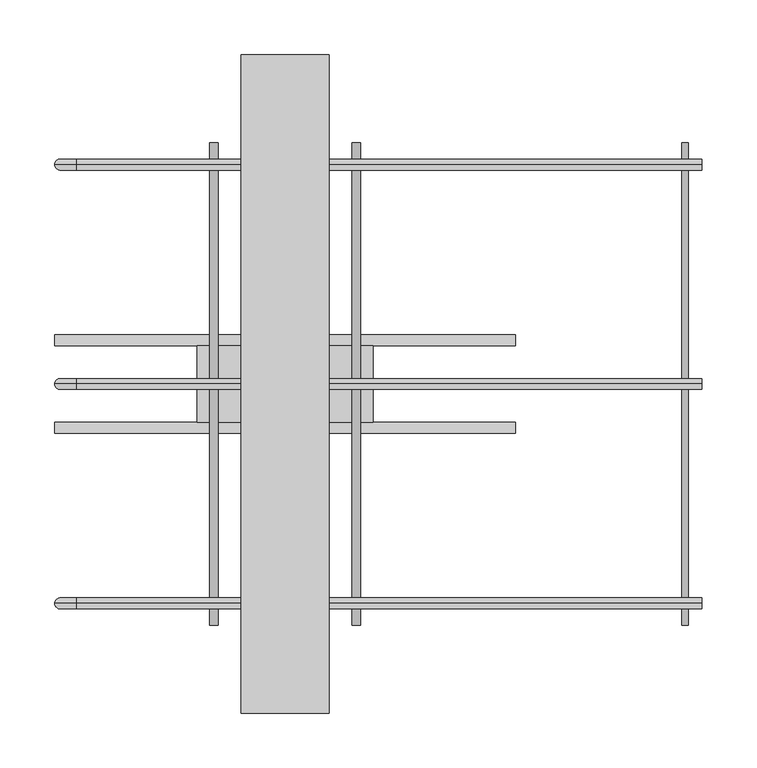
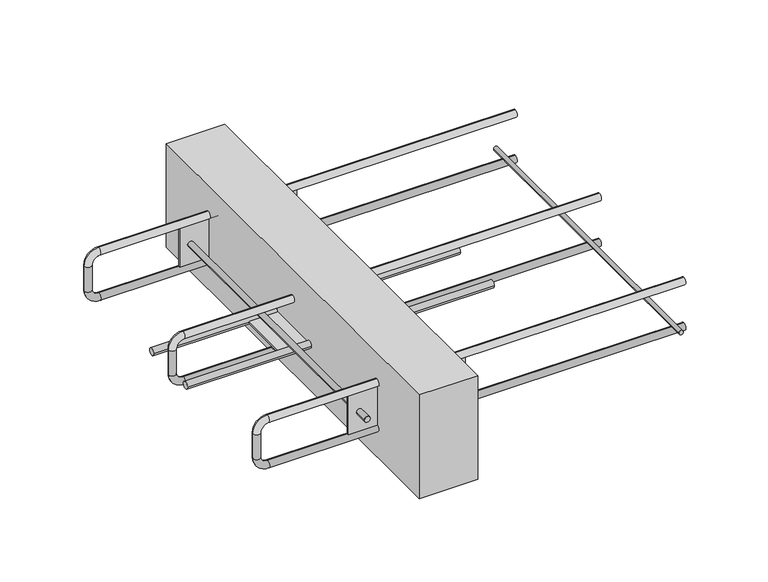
"""IFC4 building model written with IfcOpenShell, lengths in millimetres: fastener geometry, ACINOXplus_Typenreihe_UL-OL : UL+ S1."""

from ifc_helpers import new_model, si_unit, point, frame, frame_2d, origin, place, context, project, spatial, polyline, circle_curve, ellipse_curve, trimmed, segment, composite_curve, outline, extrude, source, transform, mapped, element, save
from ifc_brep_helpers import plane_surface, cylinder_surface, revolved_surface, advanced_brep


def fastener_825e70a4(model_context):
    return source(origin(), model_context, "Body", "SolidModel", [
        extrude(outline(composite_curve([segment(trimmed(circle_curve(frame_2d((-100.0, 365.0)), 3.0), [point((-100.0, 368.0))], [point((-100.0, 362.0))], False, "CARTESIAN"), True, "CONTINUOUS"), segment(trimmed(circle_curve(frame_2d((-100.0, 365.0)), 3.0), [point((-100.0, 362.0))], [point((-100.0, 368.0))], False, "CARTESIAN"), True, "CONTINUOUS")], self_intersect=False)), frame((0.0, -220.0, 0.0), z_axis=(0.0, 1.0, 0.0), x_axis=(0.0, 0.0, 1.0)), (0.0, 0.0, 1.0), 440.0),
        extrude(outline(polyline([(40.0, 300.0), (40.0, -300.0), (-40.0, -300.0), (-40.0, 300.0), (40.0, 300.0)])), frame((0.0, 0.0, -150.0), z_axis=(0.0, 0.0, 1.0), x_axis=(1.0, 0.0, 0.0)), (0.0, 0.0, 1.0), 150.0),
        extrude(outline(composite_curve([segment(trimmed(circle_curve(frame_2d((-40.0, -84.0)), 5.0), [point((-45.0, -84.0))], [point((-35.0, -84.0))], False, "CARTESIAN"), True, "CONTINUOUS"), segment(trimmed(circle_curve(frame_2d((-40.0, -84.0)), 5.0), [point((-35.0, -84.0))], [point((-45.0, -84.0))], False, "CARTESIAN"), True, "CONTINUOUS")], self_intersect=False)), frame((-210.0, 0.0, 0.0), z_axis=(1.0, 0.0, 0.0), x_axis=(0.0, 1.0, 0.0)), (0.0, 0.0, 1.0), 420.0),
        extrude(outline(composite_curve([segment(trimmed(circle_curve(frame_2d((40.0, -84.0)), 5.0), [point((35.0, -84.0))], [point((45.0, -84.0))], False, "CARTESIAN"), True, "CONTINUOUS"), segment(trimmed(circle_curve(frame_2d((40.0, -84.0)), 5.0), [point((45.0, -84.0))], [point((35.0, -84.0))], False, "CARTESIAN"), True, "CONTINUOUS")], self_intersect=False)), frame((-210.0, 0.0, 0.0), z_axis=(1.0, 0.0, 0.0), x_axis=(0.0, 1.0, 0.0)), (0.0, 0.0, 1.0), 420.0),
        extrude(outline(composite_curve([segment(trimmed(circle_curve(frame_2d((-65.0, 0.0)), 4.0), [point((-69.0, 0.0))], [point((-61.0, 0.0))], False, "CARTESIAN"), True, "CONTINUOUS"), segment(trimmed(circle_curve(frame_2d((-65.0, 0.0)), 4.0), [point((-61.0, 0.0))], [point((-69.0, 0.0))], False, "CARTESIAN"), True, "CONTINUOUS")], self_intersect=False)), frame((0.0, 0.0, -112.0), z_axis=(0.0, 0.0, 1.0), x_axis=(1.0, 0.0, 0.0)), (0.0, 0.0, 1.0), 26.5),
        extrude(outline(composite_curve([segment(trimmed(circle_curve(frame_2d((65.0, 0.0)), 4.0), [point((61.0, 0.0))], [point((69.0, 0.0))], False, "CARTESIAN"), True, "CONTINUOUS"), segment(trimmed(circle_curve(frame_2d((65.0, 0.0)), 4.0), [point((69.0, 0.0))], [point((61.0, 0.0))], False, "CARTESIAN"), True, "CONTINUOUS")], self_intersect=False)), frame((0.0, 0.0, -112.0), z_axis=(0.0, 0.0, 1.0), x_axis=(1.0, 0.0, 0.0)), (0.0, 0.0, 1.0), 26.5),
        extrude(outline(polyline([(80.0, 35.0), (80.0, -35.0), (-80.0, -35.0), (-80.0, 35.0), (80.0, 35.0)])), frame((0.0, 0.0, -85.5), z_axis=(0.0, 0.0, 1.0), x_axis=(1.0, 0.0, 0.0)), (0.0, 0.0, 1.0), 3.0),
        extrude(outline(composite_curve([segment(trimmed(circle_curve(frame_2d((-75.0, -65.0)), 4.0), [point((-75.0, -61.0))], [point((-75.0, -69.0))], False, "CARTESIAN"), True, "CONTINUOUS"), segment(trimmed(circle_curve(frame_2d((-75.0, -65.0)), 4.0), [point((-75.0, -69.0))], [point((-75.0, -61.0))], False, "CARTESIAN"), True, "CONTINUOUS")], self_intersect=False)), frame((0.0, -220.0, 0.0), z_axis=(0.0, 1.0, 0.0), x_axis=(0.0, 0.0, 1.0)), (0.0, 0.0, 1.0), 440.0),
        extrude(outline(composite_curve([segment(trimmed(circle_curve(frame_2d((-75.0, 65.0)), 4.0), [point((-75.0, 69.0))], [point((-75.0, 61.0))], False, "CARTESIAN"), True, "CONTINUOUS"), segment(trimmed(circle_curve(frame_2d((-75.0, 65.0)), 4.0), [point((-75.0, 61.0))], [point((-75.0, 69.0))], False, "CARTESIAN"), True, "CONTINUOUS")], self_intersect=False)), frame((0.0, -220.0, 0.0), z_axis=(0.0, 1.0, 0.0), x_axis=(0.0, 0.0, 1.0)), (0.0, 0.0, 1.0), 440.0),
        extrude(outline(polyline([(80.0, -198.5), (80.0, -201.5), (-80.0, -201.5), (-80.0, -198.5), (80.0, -198.5)])), frame((0.0, 0.0, -103.0), z_axis=(0.0, 0.0, 1.0), x_axis=(1.0, 0.0, 0.0)), (0.0, 0.0, 1.0), 56.0),
        extrude(outline(polyline([(80.0, 201.5), (80.0, 198.5), (-80.0, 198.5), (-80.0, 201.5), (80.0, 201.5)])), frame((0.0, 0.0, -103.0), z_axis=(0.0, 0.0, 1.0), x_axis=(1.0, 0.0, 0.0)), (0.0, 0.0, 1.0), 56.0),
        advanced_brep(
        [(380.0, 0.0, -37.0), (380.0, 0.0, -47.0), (-190.0, 0.0, -37.0), (-190.0, 0.0, -47.0), (-200.0, 0.0, -57.0), (-210.0, 0.0, -57.0), (-210.0, 0.0, -93.0), (-200.0, 0.0, -93.0), (-190.0, 0.0, -103.0), (-190.0, 0.0, -113.0), (380.0, 0.0, -113.0), (380.0, 0.0, -103.0)],
        [
            (0, 1, circle_curve(frame((380.0, 0.0, -42.0), z_axis=(1.0, 0.0, 0.0), x_axis=(0.0, 0.0, -1.0)), 5.0)),
            (1, 0, circle_curve(frame((380.0, 0.0, -42.0), z_axis=(1.0, 0.0, 0.0), x_axis=(0.0, 0.0, -1.0)), 5.0)),
            (0, 2),
            (2, 3, circle_curve(frame((-190.0, 0.0, -42.0), z_axis=(1.0, 0.0, 0.0), x_axis=(0.0, 0.0, -1.0)), 5.0)),
            (3, 1),
            (3, 2, circle_curve(frame((-190.0, 0.0, -42.0), z_axis=(1.0, 0.0, 0.0), x_axis=(0.0, 0.0, -1.0)), 5.0)),
            (4, 3, circle_curve(frame((-190.0, 0.0, -57.0), z_axis=(0.0, 1.0, 0.0), x_axis=(0.0, 0.0, 1.0)), 10.0)),
            (2, 5, circle_curve(frame((-190.0, 0.0, -57.0), z_axis=(0.0, -1.0, 0.0), x_axis=(0.0, 0.0, 1.0)), 20.0)),
            (5, 4, circle_curve(frame((-205.0, 0.0, -57.0), z_axis=(0.0, 0.0, 1.0), x_axis=(1.0, 0.0, 0.0)), 5.0)),
            (4, 5, circle_curve(frame((-205.0, 0.0, -57.0), z_axis=(0.0, 0.0, 1.0), x_axis=(1.0, 0.0, 0.0)), 5.0)),
            (5, 6),
            (6, 7, circle_curve(frame((-205.0, 0.0, -93.0), z_axis=(0.0, 0.0, 1.0), x_axis=(1.0, 0.0, 0.0)), 5.0)),
            (7, 4),
            (7, 6, circle_curve(frame((-205.0, 0.0, -93.0), z_axis=(0.0, 0.0, 1.0), x_axis=(1.0, 0.0, 0.0)), 5.0)),
            (8, 7, circle_curve(frame((-190.0, 0.0, -93.0), z_axis=(0.0, 1.0, 0.0), x_axis=(-1.0, 0.0, 0.0)), 10.0)),
            (6, 9, circle_curve(frame((-190.0, 0.0, -93.0), z_axis=(0.0, -1.0, 0.0), x_axis=(-1.0, 0.0, 0.0)), 20.0)),
            (9, 8, circle_curve(frame((-190.0, 0.0, -108.0), z_axis=(-1.0, 0.0, 0.0), x_axis=(0.0, 0.0, 1.0)), 5.0)),
            (8, 9, circle_curve(frame((-190.0, 0.0, -108.0), z_axis=(-1.0, 0.0, 0.0), x_axis=(0.0, 0.0, 1.0)), 5.0)),
            (10, 11, circle_curve(frame((380.0, 0.0, -108.0), z_axis=(1.0, 0.0, 0.0), x_axis=(0.0, 0.0, 1.0)), 5.0)),
            (11, 10, circle_curve(frame((380.0, 0.0, -108.0), z_axis=(1.0, 0.0, 0.0), x_axis=(0.0, 0.0, 1.0)), 5.0)),
            (9, 10),
            (11, 8),
        ],
        [
            plane_surface(frame((380.0, 0.0, -42.0), z_axis=(1.0, 0.0, 0.0), x_axis=(0.0, -1.0, 0.0))),
            cylinder_surface(frame((380.0, 0.0, -42.0), z_axis=(1.0, 0.0, 0.0), x_axis=(0.0, 0.0, -1.0)), 5.0),
            revolved_surface(trimmed(ellipse_curve(frame((-190.0, 0.0, -42.0), z_axis=(1.0, 0.0, 0.0), x_axis=(0.0, 0.0, -1.0)), 5.0, 5.0), [point((-190.0, 0.0, -37.0))], [point((-190.0, 0.0, -47.0))], True, "CARTESIAN"), (-190.0, 0.0, -57.0), (0.0, -1.0, 0.0)),
            revolved_surface(trimmed(ellipse_curve(frame((-190.0, 0.0, -42.0), z_axis=(1.0, 0.0, 0.0), x_axis=(0.0, 0.0, -1.0)), 5.0, 5.0), [point((-190.0, 0.0, -47.0))], [point((-190.0, 0.0, -37.0))], True, "CARTESIAN"), (-190.0, 0.0, -57.0), (0.0, -1.0, 0.0)),
            cylinder_surface(frame((-205.0, 0.0, -57.0), z_axis=(0.0, 0.0, 1.0), x_axis=(1.0, 0.0, 0.0)), 5.0),
            revolved_surface(trimmed(ellipse_curve(frame((-205.0, 0.0, -93.0), z_axis=(0.0, 0.0, 1.0), x_axis=(1.0, 0.0, 0.0)), 5.0, 5.0), [point((-210.0, 0.0, -93.0))], [point((-200.0, 0.0, -93.0))], True, "CARTESIAN"), (-190.0, 0.0, -93.0), (0.0, -1.0, 0.0)),
            revolved_surface(trimmed(ellipse_curve(frame((-205.0, 0.0, -93.0), z_axis=(0.0, 0.0, 1.0), x_axis=(1.0, 0.0, 0.0)), 5.0, 5.0), [point((-200.0, 0.0, -93.0))], [point((-210.0, 0.0, -93.0))], True, "CARTESIAN"), (-190.0, 0.0, -93.0), (0.0, -1.0, 0.0)),
            plane_surface(frame((380.0, 0.0, -108.0), z_axis=(1.0, 0.0, 0.0), x_axis=(0.0, -1.0, 0.0))),
            cylinder_surface(frame((-190.0, 0.0, -108.0), z_axis=(-1.0, 0.0, 0.0), x_axis=(0.0, 0.0, 1.0)), 5.0),
        ],
        [
            (0, [[1, 2]]),
            (1, [[-1, 3, 4, 5]]),
            (1, [[-2, -5, 6, -3]]),
            (2, [[7, -4, 8, 9]]),
            (3, [[-8, -6, -7, 10]]),
            (4, [[-9, 11, 12, 13]]),
            (4, [[-10, -13, 14, -11]]),
            (5, [[15, -12, 16, 17]]),
            (6, [[-16, -14, -15, 18]]),
            (7, [[19, 20]]),
            (8, [[-17, 21, -20, 22]]),
            (8, [[-18, -22, -19, -21]]),
        ],
    ),
        advanced_brep(
        [(380.0, 200.0, -37.0), (380.0, 200.0, -47.0), (-190.0, 200.0, -37.0), (-190.0, 200.0, -47.0), (-200.0, 200.0, -57.0), (-210.0, 200.0, -57.0), (-210.0, 200.0, -93.0), (-200.0, 200.0, -93.0), (-190.0, 200.0, -103.0), (-190.0, 200.0, -113.0), (380.0, 200.0, -113.0), (380.0, 200.0, -103.0)],
        [
            (0, 1, circle_curve(frame((380.0, 200.0, -42.0), z_axis=(1.0, 0.0, 0.0), x_axis=(0.0, 0.0, -1.0)), 5.0)),
            (1, 0, circle_curve(frame((380.0, 200.0, -42.0), z_axis=(1.0, 0.0, 0.0), x_axis=(0.0, 0.0, -1.0)), 5.0)),
            (0, 2),
            (2, 3, circle_curve(frame((-190.0, 200.0, -42.0), z_axis=(1.0, 0.0, 0.0), x_axis=(0.0, 0.0, -1.0)), 5.0)),
            (3, 1),
            (3, 2, circle_curve(frame((-190.0, 200.0, -42.0), z_axis=(1.0, 0.0, 0.0), x_axis=(0.0, 0.0, -1.0)), 5.0)),
            (4, 3, circle_curve(frame((-190.0, 200.0, -57.0), z_axis=(0.0, 1.0, 0.0), x_axis=(0.0, 0.0, 1.0)), 10.0)),
            (2, 5, circle_curve(frame((-190.0, 200.0, -57.0), z_axis=(0.0, -1.0, 0.0), x_axis=(0.0, 0.0, 1.0)), 20.0)),
            (5, 4, circle_curve(frame((-205.0, 200.0, -57.0), z_axis=(0.0, 0.0, 1.0), x_axis=(1.0, 0.0, 0.0)), 5.0)),
            (4, 5, circle_curve(frame((-205.0, 200.0, -57.0), z_axis=(0.0, 0.0, 1.0), x_axis=(1.0, 0.0, 0.0)), 5.0)),
            (5, 6),
            (6, 7, circle_curve(frame((-205.0, 200.0, -93.0), z_axis=(0.0, 0.0, 1.0), x_axis=(1.0, 0.0, 0.0)), 5.0)),
            (7, 4),
            (7, 6, circle_curve(frame((-205.0, 200.0, -93.0), z_axis=(0.0, 0.0, 1.0), x_axis=(1.0, 0.0, 0.0)), 5.0)),
            (8, 7, circle_curve(frame((-190.0, 200.0, -93.0), z_axis=(0.0, 1.0, 0.0), x_axis=(-1.0, 0.0, 0.0)), 10.0)),
            (6, 9, circle_curve(frame((-190.0, 200.0, -93.0), z_axis=(0.0, -1.0, 0.0), x_axis=(-1.0, 0.0, 0.0)), 20.0)),
            (9, 8, circle_curve(frame((-190.0, 200.0, -108.0), z_axis=(-1.0, 0.0, 0.0), x_axis=(0.0, 0.0, 1.0)), 5.0)),
            (8, 9, circle_curve(frame((-190.0, 200.0, -108.0), z_axis=(-1.0, 0.0, 0.0), x_axis=(0.0, 0.0, 1.0)), 5.0)),
            (10, 11, circle_curve(frame((380.0, 200.0, -108.0), z_axis=(1.0, 0.0, 0.0), x_axis=(0.0, 0.0, 1.0)), 5.0)),
            (11, 10, circle_curve(frame((380.0, 200.0, -108.0), z_axis=(1.0, 0.0, 0.0), x_axis=(0.0, 0.0, 1.0)), 5.0)),
            (9, 10),
            (11, 8),
        ],
        [
            plane_surface(frame((380.0, 200.0, -42.0), z_axis=(1.0, 0.0, 0.0), x_axis=(0.0, -1.0, 0.0))),
            cylinder_surface(frame((380.0, 200.0, -42.0), z_axis=(1.0, 0.0, 0.0), x_axis=(0.0, 0.0, -1.0)), 5.0),
            revolved_surface(trimmed(ellipse_curve(frame((-190.0, 200.0, -42.0), z_axis=(1.0, 0.0, 0.0), x_axis=(0.0, 0.0, -1.0)), 5.0, 5.0), [point((-190.0, 200.0, -37.0))], [point((-190.0, 200.0, -47.0))], True, "CARTESIAN"), (-190.0, 200.0, -57.0), (0.0, -1.0, 0.0)),
            revolved_surface(trimmed(ellipse_curve(frame((-190.0, 200.0, -42.0), z_axis=(1.0, 0.0, 0.0), x_axis=(0.0, 0.0, -1.0)), 5.0, 5.0), [point((-190.0, 200.0, -47.0))], [point((-190.0, 200.0, -37.0))], True, "CARTESIAN"), (-190.0, 200.0, -57.0), (0.0, -1.0, 0.0)),
            cylinder_surface(frame((-205.0, 200.0, -57.0), z_axis=(0.0, 0.0, 1.0), x_axis=(1.0, 0.0, 0.0)), 5.0),
            revolved_surface(trimmed(ellipse_curve(frame((-205.0, 200.0, -93.0), z_axis=(0.0, 0.0, 1.0), x_axis=(1.0, 0.0, 0.0)), 5.0, 5.0), [point((-210.0, 200.0, -93.0))], [point((-200.0, 200.0, -93.0))], True, "CARTESIAN"), (-190.0, 200.0, -93.0), (0.0, -1.0, 0.0)),
            revolved_surface(trimmed(ellipse_curve(frame((-205.0, 200.0, -93.0), z_axis=(0.0, 0.0, 1.0), x_axis=(1.0, 0.0, 0.0)), 5.0, 5.0), [point((-200.0, 200.0, -93.0))], [point((-210.0, 200.0, -93.0))], True, "CARTESIAN"), (-190.0, 200.0, -93.0), (0.0, -1.0, 0.0)),
            plane_surface(frame((380.0, 200.0, -108.0), z_axis=(1.0, 0.0, 0.0), x_axis=(0.0, -1.0, 0.0))),
            cylinder_surface(frame((-190.0, 200.0, -108.0), z_axis=(-1.0, 0.0, 0.0), x_axis=(0.0, 0.0, 1.0)), 5.0),
        ],
        [
            (0, [[1, 2]]),
            (1, [[-1, 3, 4, 5]]),
            (1, [[-2, -5, 6, -3]]),
            (2, [[7, -4, 8, 9]]),
            (3, [[-8, -6, -7, 10]]),
            (4, [[-9, 11, 12, 13]]),
            (4, [[-10, -13, 14, -11]]),
            (5, [[15, -12, 16, 17]]),
            (6, [[-16, -14, -15, 18]]),
            (7, [[19, 20]]),
            (8, [[-17, 21, -20, 22]]),
            (8, [[-18, -22, -19, -21]]),
        ],
    ),
        advanced_brep(
        [(380.0, -200.0, -37.0), (380.0, -200.0, -47.0), (-190.0, -200.0, -37.0), (-190.0, -200.0, -47.0), (-200.0, -200.0, -57.0), (-210.0, -200.0, -57.0), (-210.0, -200.0, -93.0), (-200.0, -200.0, -93.0), (-190.0, -200.0, -103.0), (-190.0, -200.0, -113.0), (380.0, -200.0, -113.0), (380.0, -200.0, -103.0)],
        [
            (0, 1, circle_curve(frame((380.0, -200.0, -42.0), z_axis=(1.0, 0.0, 0.0), x_axis=(0.0, 0.0, -1.0)), 5.0)),
            (1, 0, circle_curve(frame((380.0, -200.0, -42.0), z_axis=(1.0, 0.0, 0.0), x_axis=(0.0, 0.0, -1.0)), 5.0)),
            (0, 2),
            (2, 3, circle_curve(frame((-190.0, -200.0, -42.0), z_axis=(1.0, 0.0, 0.0), x_axis=(0.0, 0.0, -1.0)), 5.0)),
            (3, 1),
            (3, 2, circle_curve(frame((-190.0, -200.0, -42.0), z_axis=(1.0, 0.0, 0.0), x_axis=(0.0, 0.0, -1.0)), 5.0)),
            (4, 3, circle_curve(frame((-190.0, -200.0, -57.0), z_axis=(0.0, 1.0, 0.0), x_axis=(0.0, 0.0, 1.0)), 10.0)),
            (2, 5, circle_curve(frame((-190.0, -200.0, -57.0), z_axis=(0.0, -1.0, 0.0), x_axis=(0.0, 0.0, 1.0)), 20.0)),
            (5, 4, circle_curve(frame((-205.0, -200.0, -57.0), z_axis=(0.0, 0.0, 1.0), x_axis=(1.0, 0.0, 0.0)), 5.0)),
            (4, 5, circle_curve(frame((-205.0, -200.0, -57.0), z_axis=(0.0, 0.0, 1.0), x_axis=(1.0, 0.0, 0.0)), 5.0)),
            (5, 6),
            (6, 7, circle_curve(frame((-205.0, -200.0, -93.0), z_axis=(0.0, 0.0, 1.0), x_axis=(1.0, 0.0, 0.0)), 5.0)),
            (7, 4),
            (7, 6, circle_curve(frame((-205.0, -200.0, -93.0), z_axis=(0.0, 0.0, 1.0), x_axis=(1.0, 0.0, 0.0)), 5.0)),
            (8, 7, circle_curve(frame((-190.0, -200.0, -93.0), z_axis=(0.0, 1.0, 0.0), x_axis=(-1.0, 0.0, 0.0)), 10.0)),
            (6, 9, circle_curve(frame((-190.0, -200.0, -93.0), z_axis=(0.0, -1.0, 0.0), x_axis=(-1.0, 0.0, 0.0)), 20.0)),
            (9, 8, circle_curve(frame((-190.0, -200.0, -108.0), z_axis=(-1.0, 0.0, 0.0), x_axis=(0.0, 0.0, 1.0)), 5.0)),
            (8, 9, circle_curve(frame((-190.0, -200.0, -108.0), z_axis=(-1.0, 0.0, 0.0), x_axis=(0.0, 0.0, 1.0)), 5.0)),
            (10, 11, circle_curve(frame((380.0, -200.0, -108.0), z_axis=(1.0, 0.0, 0.0), x_axis=(0.0, 0.0, 1.0)), 5.0)),
            (11, 10, circle_curve(frame((380.0, -200.0, -108.0), z_axis=(1.0, 0.0, 0.0), x_axis=(0.0, 0.0, 1.0)), 5.0)),
            (9, 10),
            (11, 8),
        ],
        [
            plane_surface(frame((380.0, -200.0, -42.0), z_axis=(1.0, 0.0, 0.0), x_axis=(0.0, -1.0, 0.0))),
            cylinder_surface(frame((380.0, -200.0, -42.0), z_axis=(1.0, 0.0, 0.0), x_axis=(0.0, 0.0, -1.0)), 5.0),
            revolved_surface(trimmed(ellipse_curve(frame((-190.0, -200.0, -42.0), z_axis=(1.0, 0.0, 0.0), x_axis=(0.0, 0.0, -1.0)), 5.0, 5.0), [point((-190.0, -200.0, -37.0))], [point((-190.0, -200.0, -47.0))], True, "CARTESIAN"), (-190.0, -200.0, -57.0), (0.0, -1.0, 0.0)),
            revolved_surface(trimmed(ellipse_curve(frame((-190.0, -200.0, -42.0), z_axis=(1.0, 0.0, 0.0), x_axis=(0.0, 0.0, -1.0)), 5.0, 5.0), [point((-190.0, -200.0, -47.0))], [point((-190.0, -200.0, -37.0))], True, "CARTESIAN"), (-190.0, -200.0, -57.0), (0.0, -1.0, 0.0)),
            cylinder_surface(frame((-205.0, -200.0, -57.0), z_axis=(0.0, 0.0, 1.0), x_axis=(1.0, 0.0, 0.0)), 5.0),
            revolved_surface(trimmed(ellipse_curve(frame((-205.0, -200.0, -93.0), z_axis=(0.0, 0.0, 1.0), x_axis=(1.0, 0.0, 0.0)), 5.0, 5.0), [point((-210.0, -200.0, -93.0))], [point((-200.0, -200.0, -93.0))], True, "CARTESIAN"), (-190.0, -200.0, -93.0), (0.0, -1.0, 0.0)),
            revolved_surface(trimmed(ellipse_curve(frame((-205.0, -200.0, -93.0), z_axis=(0.0, 0.0, 1.0), x_axis=(1.0, 0.0, 0.0)), 5.0, 5.0), [point((-200.0, -200.0, -93.0))], [point((-210.0, -200.0, -93.0))], True, "CARTESIAN"), (-190.0, -200.0, -93.0), (0.0, -1.0, 0.0)),
            plane_surface(frame((380.0, -200.0, -108.0), z_axis=(1.0, 0.0, 0.0), x_axis=(0.0, -1.0, 0.0))),
            cylinder_surface(frame((-190.0, -200.0, -108.0), z_axis=(-1.0, 0.0, 0.0), x_axis=(0.0, 0.0, 1.0)), 5.0),
        ],
        [
            (0, [[1, 2]]),
            (1, [[-1, 3, 4, 5]]),
            (1, [[-2, -5, 6, -3]]),
            (2, [[7, -4, 8, 9]]),
            (3, [[-8, -6, -7, 10]]),
            (4, [[-9, 11, 12, 13]]),
            (4, [[-10, -13, 14, -11]]),
            (5, [[15, -12, 16, 17]]),
            (6, [[-16, -14, -15, 18]]),
            (7, [[19, 20]]),
            (8, [[-17, 21, -20, 22]]),
            (8, [[-18, -22, -19, -21]]),
        ],
    ),
    ])


if __name__ == "__main__":
    model = new_model("IFC4")
    model_context = context("Model", 3, world=origin())
    ifc_project = project(units=[si_unit("LENGTHUNIT", "METRE", prefix="MILLI")], contexts=[model_context])
    site = spatial("IfcSite", under=ifc_project)
    building = spatial("IfcBuilding", under=site)
    placement = place(None, origin())
    fastener_shape = fastener_825e70a4(model_context)
    element("IfcFastener", 1, ObjectType="ACINOXplus_Typenreihe_UL-OL : UL+ S1", at=placement, inside=building, context=model_context, shape_type="MappedRepresentation", body=[
        mapped(fastener_shape, transform((0.0, 0.0, 0.0), x_axis=(1.0, 0.0, 0.0), y_axis=(0.0, 1.0, 0.0), z_axis=(0.0, 0.0, 1.0))),
    ])
    save(model, "model.ifc")
